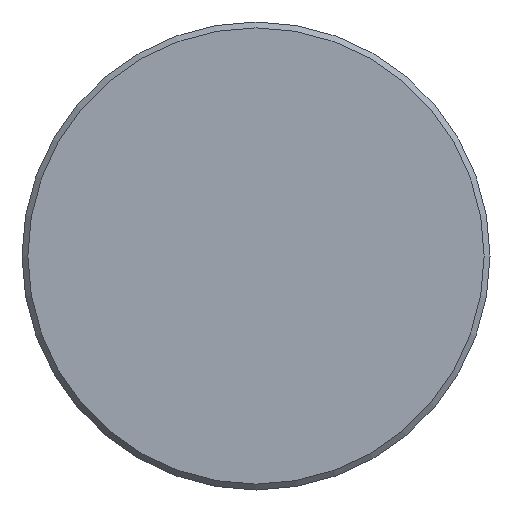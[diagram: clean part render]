
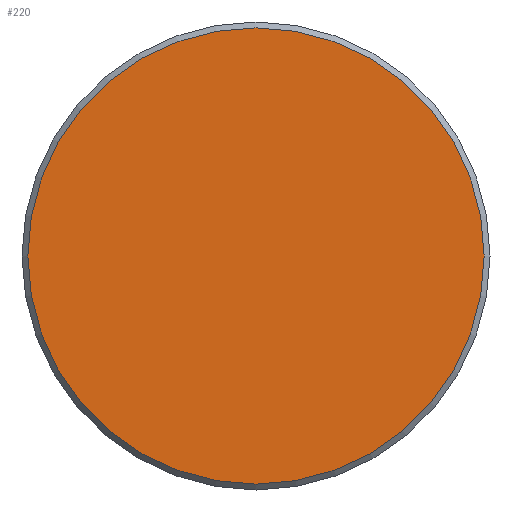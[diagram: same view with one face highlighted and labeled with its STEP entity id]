
A CAD part, front view. The second image highlights one B-rep face of the part: STEP entity #220.
In plain terms, the highlighted planar face has unit normal (0, -1, 0).
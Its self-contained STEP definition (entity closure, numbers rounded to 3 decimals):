
#220 = ADVANCED_FACE( '', ( #424 ), #425, .F. );
#424 = FACE_OUTER_BOUND( '', #620, .T. );
#425 = PLANE( '', #621 );
#620 = EDGE_LOOP( '', ( #974 ) );
#621 = AXIS2_PLACEMENT_3D( '', #975, #976, #977 );
#974 = ORIENTED_EDGE( '', *, *, #1225, .T. );
#975 = CARTESIAN_POINT( '', ( 19.5, 0., 0. ) );
#976 = DIRECTION( '', ( 0., 1., 0. ) );
#977 = DIRECTION( '', ( 0., 0., 1. ) );
#1225 = EDGE_CURVE( '', #1439, #1439, #1440, .T. );
#1439 = VERTEX_POINT( '', #1928 );
#1440 = CIRCLE( '', #1929, 19.5 );
#1928 = CARTESIAN_POINT( '', ( 0., 0., -19.5 ) );
#1929 = AXIS2_PLACEMENT_3D( '', #2080, #2081, #2082 );
#2080 = CARTESIAN_POINT( '', ( 0., 0., 0. ) );
#2081 = DIRECTION( '', ( 0., -1., 0. ) );
#2082 = DIRECTION( '', ( 0., 0., -1. ) );
